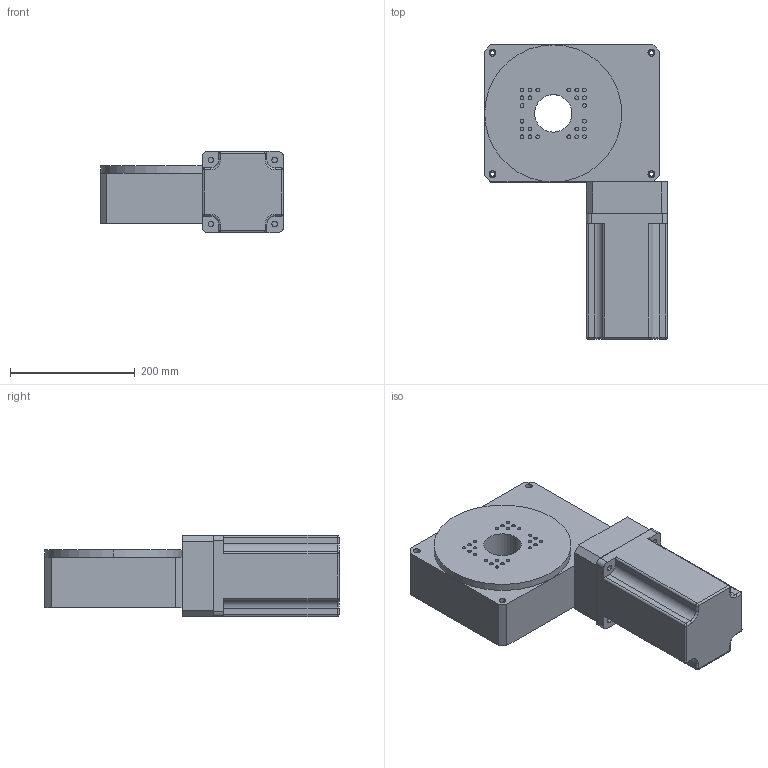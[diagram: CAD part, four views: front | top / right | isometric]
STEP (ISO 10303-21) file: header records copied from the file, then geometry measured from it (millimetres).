
FILE_DESCRIPTION (( 'STEP AP203' ), '1' );
FILE_NAME ('PT-GD220H（伺服电机）1.STEP', '2022-09-03T06:28:27', ( '' ), ( '' ), 'SwSTEP 2.0', 'SolidWorks 2020', '' );
FILE_SCHEMA (( 'CONFIG_CONTROL_DESIGN' ));
Length unit declared in the file: millimetre
Products named in the file (4): dianji^PT-GD220H（伺服电机）1; PT-GD220H（伺服电机）1; PT-GD220H^PT-GD220H（伺服电机）1; ______^PT-GD220H（伺服电机）1
Assembly tree (3 placements, depth 2):
  PT-GD220H（伺服电机）1
    PT-GD220H^PT-GD220H（伺服电机）1
    dianji^PT-GD220H（伺服电机）1
    ______^PT-GD220H（伺服电机）1
Bounding box: 293 x 472 x 130 mm (x, y, z)
Volume: 8963709.3 mm3; surface area: 432230.7 mm2
Topology: 3 solids, 3 shells, 383 faces, 962 edges, 632 vertices
Faces by surface type: plane 182, cylinder 111, bspline 84, torus 4, cone 2
Entity records: 15140 total; most frequent: CARTESIAN_POINT 5864, ORIENTED_EDGE 1924, DIRECTION 1640, EDGE_CURVE 962, VERTEX_POINT 632, LINE 568, VECTOR 568, AXIS2_PLACEMENT_3D 536
